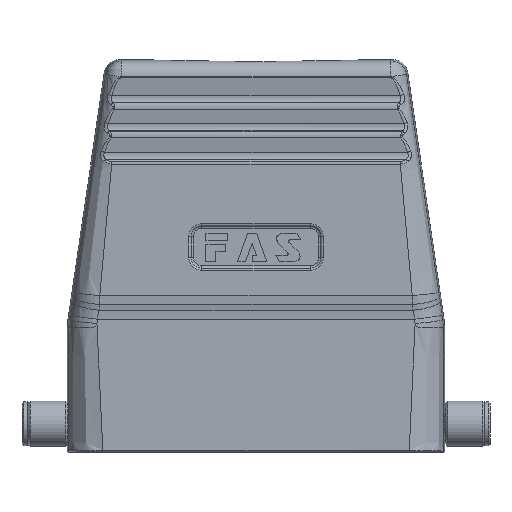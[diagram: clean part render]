
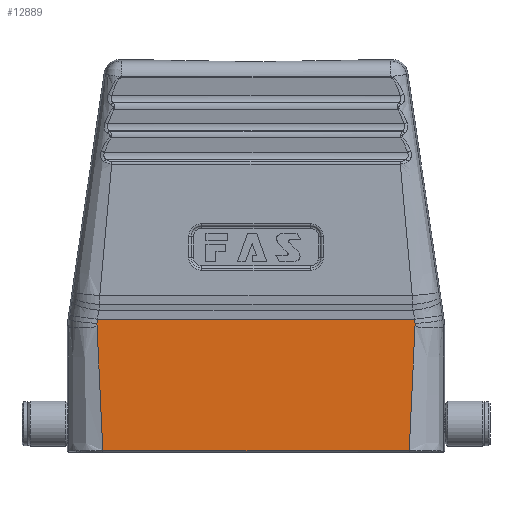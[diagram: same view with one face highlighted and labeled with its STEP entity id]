
A CAD part, top view. The second image highlights one B-rep face of the part: STEP entity #12889.
In plain terms, the highlighted planar face has unit normal (0, 0, 1).
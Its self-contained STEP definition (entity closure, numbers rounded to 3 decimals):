
#249 = DIRECTION ( 'NONE',  ( 1., 0., 0. ) ) ;
#458 = DIRECTION ( 'NONE',  ( -1., 0., 0. ) ) ;
#620 = CARTESIAN_POINT ( 'NONE',  ( -30.712, 53.234, 21.5 ) ) ;
#624 = CARTESIAN_POINT ( 'NONE',  ( -30.783, 52.517, 21.5 ) ) ;
#892 = CARTESIAN_POINT ( 'NONE',  ( 30.142, 43.881, 21.5 ) ) ;
#1810 = VERTEX_POINT ( 'NONE', #624 ) ;
#2084 = VERTEX_POINT ( 'NONE', #5336 ) ;
#2438 = CARTESIAN_POINT ( 'NONE',  ( 30.702, 53.323, 21.5 ) ) ;
#2464 = EDGE_CURVE ( 'NONE', #11365, #12951, #24763, .T. ) ;
#2925 = CARTESIAN_POINT ( 'NONE',  ( 29.76, 31.894, 21.5 ) ) ;
#3008 = CARTESIAN_POINT ( 'NONE',  ( 29.647, 27.898, 21.5 ) ) ;
#3213 = CARTESIAN_POINT ( 'NONE',  ( -9.882, 27.898, 21.5 ) ) ;
#3943 = CARTESIAN_POINT ( 'NONE',  ( 30.79, 52.292, 21.5 ) ) ;
#3960 = ORIENTED_EDGE ( 'NONE', *, *, #8784, .F. ) ;
#4846 = CARTESIAN_POINT ( 'NONE',  ( 29.839, 35.892, 21.5 ) ) ;
#4885 = CARTESIAN_POINT ( 'NONE',  ( -30.702, 53.323, 21.5 ) ) ;
#4901 =( BOUNDED_CURVE ( )  B_SPLINE_CURVE ( 3, ( #19619, #12109, #23824, #23651, #620, #19696 ),
 .UNSPECIFIED., .F., .F. ) 
 B_SPLINE_CURVE_WITH_KNOTS ( ( 4, 1, 1, 4 ),
 ( 0., 0.333, 0.666, 1. ),
 .UNSPECIFIED. ) 
 CURVE ( )  GEOMETRIC_REPRESENTATION_ITEM ( )  RATIONAL_B_SPLINE_CURVE ( ( 1.17, 1.17, 1.17, 1.17, 1.17, 1.17 ) ) 
 REPRESENTATION_ITEM ( '' )  );
#5207 = ORIENTED_EDGE ( 'NONE', *, *, #7089, .F. ) ;
#5336 = CARTESIAN_POINT ( 'NONE',  ( -30.765, 51.846, 21.5 ) ) ;
#6066 = VERTEX_POINT ( 'NONE', #15539 ) ;
#6325 = CARTESIAN_POINT ( 'NONE',  ( -32.019, 53.323, 21.5 ) ) ;
#6563 = CARTESIAN_POINT ( 'NONE',  ( 29.647, 27.898, 21.5 ) ) ;
#6634 = VERTEX_POINT ( 'NONE', #6563 ) ;
#6646 = CARTESIAN_POINT ( 'NONE',  ( -30.765, 51.846, 21.5 ) ) ;
#6801 = CARTESIAN_POINT ( 'NONE',  ( -30.772, 51.92, 21.5 ) ) ;
#6841 =( BOUNDED_CURVE ( )  B_SPLINE_CURVE ( 3, ( #6646, #6801, #18118, #8561, #14174, #16268 ),
 .UNSPECIFIED., .F., .T. ) 
 B_SPLINE_CURVE_WITH_KNOTS ( ( 4, 1, 1, 4 ),
 ( 0., 0.333, 0.666, 1. ),
 .UNSPECIFIED. ) 
 CURVE ( )  GEOMETRIC_REPRESENTATION_ITEM ( )  RATIONAL_B_SPLINE_CURVE ( ( 1.17, 1.17, 1.17, 1.17, 1.17, 1.17 ) ) 
 REPRESENTATION_ITEM ( '' )  );
#6945 = ORIENTED_EDGE ( 'NONE', *, *, #19078, .F. ) ;
#7089 = EDGE_CURVE ( 'NONE', #12951, #6066, #9760, .T. ) ;
#7109 = CARTESIAN_POINT ( 'NONE',  ( -29.647, 27.898, 21.5 ) ) ;
#7280 = CARTESIAN_POINT ( 'NONE',  ( -29.647, 27.898, 21.5 ) ) ;
#7289 = ORIENTED_EDGE ( 'NONE', *, *, #24089, .F. ) ;
#8561 = CARTESIAN_POINT ( 'NONE',  ( -30.79, 52.292, 21.5 ) ) ;
#8784 = EDGE_CURVE ( 'NONE', #1810, #9637, #4901, .T. ) ;
#8820 = CARTESIAN_POINT ( 'NONE',  ( 29.647, 27.898, 21.5 ) ) ;
#9637 = VERTEX_POINT ( 'NONE', #4885 ) ;
#9760 =( BOUNDED_CURVE ( )  B_SPLINE_CURVE ( 3, ( #15573, #11549, #3943, #23410, #19719, #15743 ),
 .UNSPECIFIED., .F., .F. ) 
 B_SPLINE_CURVE_WITH_KNOTS ( ( 4, 1, 1, 4 ),
 ( 0., 0.334, 0.667, 1. ),
 .UNSPECIFIED. ) 
 CURVE ( )  GEOMETRIC_REPRESENTATION_ITEM ( )  RATIONAL_B_SPLINE_CURVE ( ( 1.17, 1.17, 1.17, 1.17, 1.17, 1.17 ) ) 
 REPRESENTATION_ITEM ( '' )  );
#9772 = PLANE ( 'NONE',  #21227 ) ;
#9819 = FACE_OUTER_BOUND ( 'NONE', #12996, .T. ) ;
#10110 = CARTESIAN_POINT ( 'NONE',  ( 30.783, 52.517, 21.5 ) ) ;
#10187 = CARTESIAN_POINT ( 'NONE',  ( -32.019, 27.39, 21.5 ) ) ;
#10733 = CARTESIAN_POINT ( 'NONE',  ( -29.647, 27.898, 21.5 ) ) ;
#11133 = CARTESIAN_POINT ( 'NONE',  ( -29.76, 31.894, 21.5 ) ) ;
#11365 = VERTEX_POINT ( 'NONE', #20475 ) ;
#11549 = CARTESIAN_POINT ( 'NONE',  ( 30.786, 52.442, 21.5 ) ) ;
#11964 = CARTESIAN_POINT ( 'NONE',  ( 30.764, 52.787, 21.5 ) ) ;
#12109 = CARTESIAN_POINT ( 'NONE',  ( -30.779, 52.607, 21.5 ) ) ;
#12456 = CARTESIAN_POINT ( 'NONE',  ( 30.366, 47.874, 21.5 ) ) ;
#12827 = VERTEX_POINT ( 'NONE', #7280 ) ;
#12889 = ADVANCED_FACE ( 'NONE', ( #9819 ), #9772, .F. ) ;
#12951 = VERTEX_POINT ( 'NONE', #10110 ) ;
#12965 = CARTESIAN_POINT ( 'NONE',  ( -30.765, 51.846, 21.5 ) ) ;
#12996 = EDGE_LOOP ( 'NONE', ( #21664, #22338, #3960, #7289, #22154, #19836, #6945, #5207 ) ) ;
#13702 = EDGE_CURVE ( 'NONE', #6634, #12827, #16600, .T. ) ;
#13898 = CARTESIAN_POINT ( 'NONE',  ( 30.712, 53.234, 21.5 ) ) ;
#14174 = CARTESIAN_POINT ( 'NONE',  ( -30.786, 52.442, 21.5 ) ) ;
#14928 = EDGE_CURVE ( 'NONE', #9637, #11365, #21511, .T. ) ;
#15166 = VECTOR ( 'NONE', #249, 1000. ) ;
#15539 = CARTESIAN_POINT ( 'NONE',  ( 30.765, 51.846, 21.5 ) ) ;
#15573 = CARTESIAN_POINT ( 'NONE',  ( 30.783, 52.517, 21.5 ) ) ;
#15743 = CARTESIAN_POINT ( 'NONE',  ( 30.765, 51.846, 21.5 ) ) ;
#15839 = CARTESIAN_POINT ( 'NONE',  ( 30.783, 52.517, 21.5 ) ) ;
#16268 = CARTESIAN_POINT ( 'NONE',  ( -30.783, 52.517, 21.5 ) ) ;
#16589 = CARTESIAN_POINT ( 'NONE',  ( -30.366, 47.874, 21.5 ) ) ;
#16599 = B_SPLINE_CURVE_WITH_KNOTS ( 'NONE', 3,
 ( #23924, #12456, #892, #4846, #2925, #3008 ),
 .UNSPECIFIED., .F., .F.,
 ( 4, 2, 4 ),
 ( 0., 0.5, 1. ),
 .UNSPECIFIED. ) ;
#16600 = B_SPLINE_CURVE_WITH_KNOTS ( 'NONE', 3,
 ( #8820, #22265, #3213, #10733 ),
 .UNSPECIFIED., .F., .F.,
 ( 4, 4 ),
 ( 0., 1. ),
 .UNSPECIFIED. ) ;
#17601 = CARTESIAN_POINT ( 'NONE',  ( 30.734, 53.055, 21.5 ) ) ;
#18118 = CARTESIAN_POINT ( 'NONE',  ( -30.784, 52.068, 21.5 ) ) ;
#19078 = EDGE_CURVE ( 'NONE', #6066, #6634, #16599, .T. ) ;
#19619 = CARTESIAN_POINT ( 'NONE',  ( -30.783, 52.517, 21.5 ) ) ;
#19696 = CARTESIAN_POINT ( 'NONE',  ( -30.702, 53.323, 21.5 ) ) ;
#19719 = CARTESIAN_POINT ( 'NONE',  ( 30.772, 51.92, 21.5 ) ) ;
#19814 = CARTESIAN_POINT ( 'NONE',  ( 30.779, 52.607, 21.5 ) ) ;
#19836 = ORIENTED_EDGE ( 'NONE', *, *, #13702, .F. ) ;
#20035 = EDGE_CURVE ( 'NONE', #12827, #2084, #21847, .T. ) ;
#20475 = CARTESIAN_POINT ( 'NONE',  ( 30.702, 53.323, 21.5 ) ) ;
#21227 = AXIS2_PLACEMENT_3D ( 'NONE', #10187, #23660, #458 ) ;
#21511 = LINE ( 'NONE', #6325, #15166 ) ;
#21664 = ORIENTED_EDGE ( 'NONE', *, *, #2464, .F. ) ;
#21847 = B_SPLINE_CURVE_WITH_KNOTS ( 'NONE', 3,
 ( #7109, #11133, #24448, #22323, #16589, #12965 ),
 .UNSPECIFIED., .F., .F.,
 ( 4, 2, 4 ),
 ( 0., 0.5, 1. ),
 .UNSPECIFIED. ) ;
#22154 = ORIENTED_EDGE ( 'NONE', *, *, #20035, .F. ) ;
#22265 = CARTESIAN_POINT ( 'NONE',  ( 9.882, 27.898, 21.5 ) ) ;
#22323 = CARTESIAN_POINT ( 'NONE',  ( -30.142, 43.881, 21.5 ) ) ;
#22338 = ORIENTED_EDGE ( 'NONE', *, *, #14928, .F. ) ;
#23410 = CARTESIAN_POINT ( 'NONE',  ( 30.784, 52.068, 21.5 ) ) ;
#23651 = CARTESIAN_POINT ( 'NONE',  ( -30.734, 53.055, 21.5 ) ) ;
#23660 = DIRECTION ( 'NONE',  ( 0., 0., -1. ) ) ;
#23824 = CARTESIAN_POINT ( 'NONE',  ( -30.764, 52.787, 21.5 ) ) ;
#23924 = CARTESIAN_POINT ( 'NONE',  ( 30.765, 51.846, 21.5 ) ) ;
#24089 = EDGE_CURVE ( 'NONE', #2084, #1810, #6841, .T. ) ;
#24448 = CARTESIAN_POINT ( 'NONE',  ( -29.839, 35.892, 21.5 ) ) ;
#24763 =( BOUNDED_CURVE ( )  B_SPLINE_CURVE ( 3, ( #2438, #13898, #17601, #11964, #19814, #15839 ),
 .UNSPECIFIED., .F., .F. ) 
 B_SPLINE_CURVE_WITH_KNOTS ( ( 4, 1, 1, 4 ),
 ( 0., 0.334, 0.667, 1. ),
 .UNSPECIFIED. ) 
 CURVE ( )  GEOMETRIC_REPRESENTATION_ITEM ( )  RATIONAL_B_SPLINE_CURVE ( ( 1.17, 1.17, 1.17, 1.17, 1.17, 1.17 ) ) 
 REPRESENTATION_ITEM ( '' )  );
